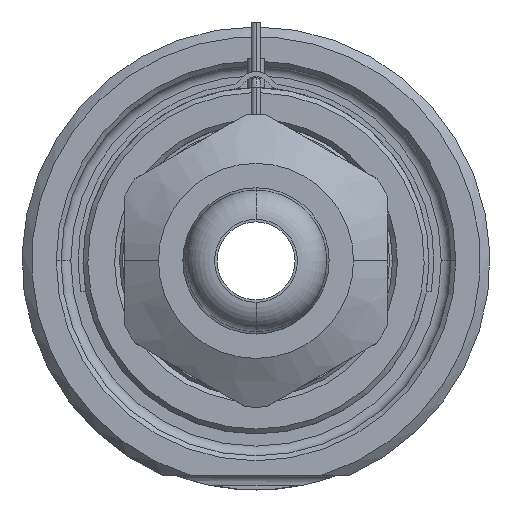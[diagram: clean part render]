
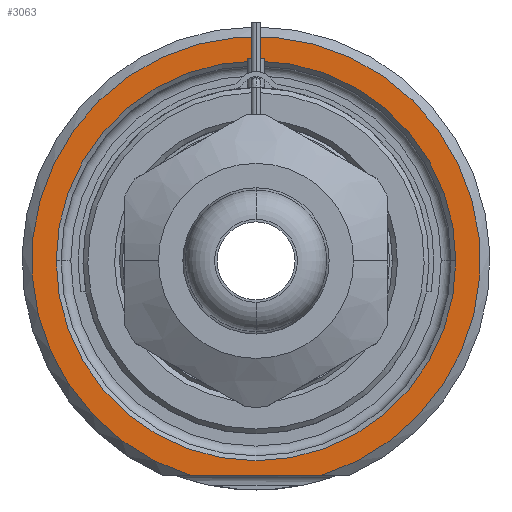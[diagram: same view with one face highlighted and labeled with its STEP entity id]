
A CAD part, front view. The second image highlights one B-rep face of the part: STEP entity #3063.
In plain terms, the highlighted planar face has unit normal (0, -1, 0).
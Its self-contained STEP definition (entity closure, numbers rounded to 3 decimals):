
#1=DIRECTION('',(1.,0.,0.));
#2=VECTOR('',#1,13.416);
#3=CARTESIAN_POINT('',(-6.708,0.,-22.));
#4=LINE('',#3,#2);
#5=CARTESIAN_POINT('',(0.,0.,0.));
#6=DIRECTION('',(0.,1.,0.));
#7=DIRECTION('',(-1.,0.,0.));
#8=AXIS2_PLACEMENT_3D('',#5,#6,#7);
#10=CARTESIAN_POINT('',(0.,0.,0.));
#11=DIRECTION('',(0.,1.,0.));
#12=DIRECTION('',(1.,0.,0.));
#13=AXIS2_PLACEMENT_3D('',#10,#11,#12);
#121=CARTESIAN_POINT('',(0.,0.,0.));
#122=DIRECTION('',(0.,-1.,0.));
#123=DIRECTION('',(0.292,0.,-0.957));
#124=AXIS2_PLACEMENT_3D('',#121,#122,#123);
#2534=CARTESIAN_POINT('',(-20.5,0.,0.));
#2535=CARTESIAN_POINT('',(20.5,0.,0.));
#2536=VERTEX_POINT('',#2534);
#2537=VERTEX_POINT('',#2535);
#2574=CARTESIAN_POINT('',(-6.708,0.,-22.));
#2575=CARTESIAN_POINT('',(6.708,0.,-22.));
#2576=VERTEX_POINT('',#2574);
#2577=VERTEX_POINT('',#2575);
#3046=CARTESIAN_POINT('',(0.,0.,0.));
#3047=DIRECTION('',(0.,-1.,0.));
#3048=DIRECTION('',(1.,0.,0.));
#3049=AXIS2_PLACEMENT_3D('',#3046,#3047,#3048);
#3050=PLANE('',#3049);
#3052=ORIENTED_EDGE('',*,*,#3051,.F.);
#3054=ORIENTED_EDGE('',*,*,#3053,.F.);
#3055=EDGE_LOOP('',(#3052,#3054));
#3056=FACE_OUTER_BOUND('',#3055,.F.);
#3058=ORIENTED_EDGE('',*,*,#3057,.F.);
#3060=ORIENTED_EDGE('',*,*,#3059,.F.);
#3061=EDGE_LOOP('',(#3058,#3060));
#3062=FACE_BOUND('',#3061,.F.);
#3063=ADVANCED_FACE('',(#3056,#3062),#3050,.T.);
#9=CIRCLE('',#8,20.5);
#14=CIRCLE('',#13,20.5);
#125=CIRCLE('',#124,23.);
#3051=EDGE_CURVE('',#2576,#2577,#4,.T.);
#3053=EDGE_CURVE('',#2577,#2576,#125,.T.);
#3057=EDGE_CURVE('',#2536,#2537,#9,.T.);
#3059=EDGE_CURVE('',#2537,#2536,#14,.T.);
